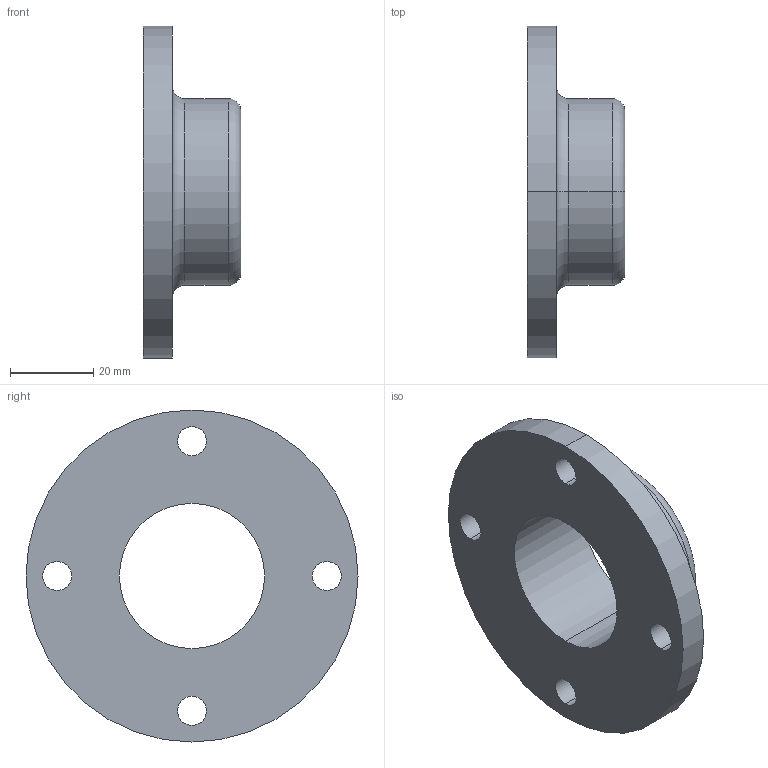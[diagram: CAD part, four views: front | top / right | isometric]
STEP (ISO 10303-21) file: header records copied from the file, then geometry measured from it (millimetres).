
FILE_DESCRIPTION (( 'STEP AP203' ), '1' );
FILE_NAME ('084.802.038.STEP', '2018-01-24T11:14:40', ( 'Localadmin' ), ( 'Microsoft' ), 'SwSTEP 2.0', 'SolidWorks 2016', '' );
FILE_SCHEMA (( 'CONFIG_CONTROL_DESIGN' ));
Length unit declared in the file: millimetre
Products named in the file (1): 084.802.038
Bounding box: 23.5 x 80 x 80 mm (x, y, z)
Volume: 37757 mm3; surface area: 14748.6 mm2
Topology: 1 solids, 1 shells, 21 faces, 50 edges, 32 vertices
Faces by surface type: cylinder 14, torus 4, plane 3
Entity records: 725 total; most frequent: DIRECTION 130, CARTESIAN_POINT 104, ORIENTED_EDGE 100, AXIS2_PLACEMENT_3D 58, EDGE_CURVE 50, CIRCLE 36, EDGE_LOOP 32, VERTEX_POINT 32
